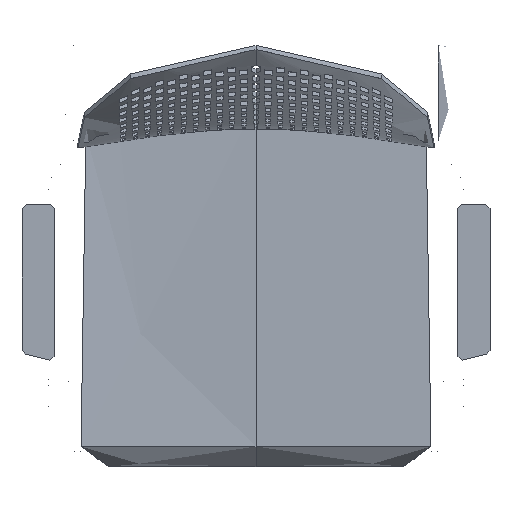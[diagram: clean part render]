
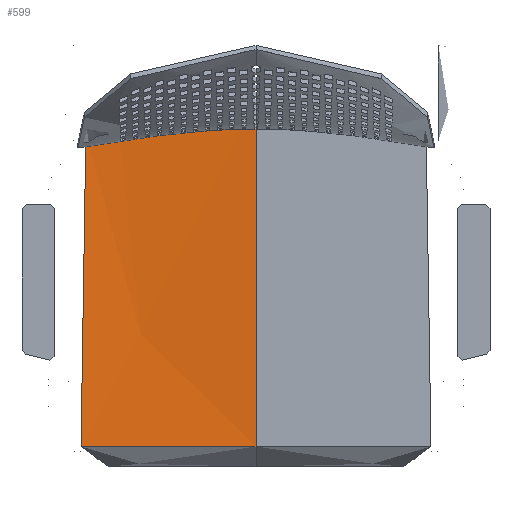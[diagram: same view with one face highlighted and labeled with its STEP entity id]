
A CAD part, top view. The second image highlights one B-rep face of the part: STEP entity #599.
In plain terms, the highlighted free-form (B-spline) face has degree [3, 3] with [4, 6] control points.
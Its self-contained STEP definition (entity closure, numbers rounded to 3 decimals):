
#599=ADVANCED_FACE('',(#1717),#20746,.T.);
#1717=FACE_OUTER_BOUND('',#2835,.T.);
#2835=EDGE_LOOP('',(#4570,#4571,#4572,#4573,#4574));
#4570=ORIENTED_EDGE('',*,*,#11030,.T.);
#4571=ORIENTED_EDGE('',*,*,#11020,.T.);
#4572=ORIENTED_EDGE('',*,*,#11039,.F.);
#4573=ORIENTED_EDGE('',*,*,#11015,.T.);
#4574=ORIENTED_EDGE('',*,*,#11040,.F.);
#11015=EDGE_CURVE('',#17568,#17570,#14409,.T.);
#11020=EDGE_CURVE('',#17573,#17574,#14414,.T.);
#11030=EDGE_CURVE('',#17579,#17573,#14424,.T.);
#11039=EDGE_CURVE('',#17568,#17574,#14433,.T.);
#11040=EDGE_CURVE('',#17579,#17570,#14205,.T.);
#14205=(
BOUNDED_CURVE()
B_SPLINE_CURVE(3,(#34113,#34114,#34115,#34116,#34117,#34118,#34119,#34120,
#34121,#34122,#34123,#34124,#34125,#34126,#34127,#34128,#34129,#34130,#34131,
#34132,#34133,#34134,#34135,#34136,#34137,#34138,#34139,#34140,#34141,#34142,
#34143),.UNSPECIFIED.,.F.,.F.)
B_SPLINE_CURVE_WITH_KNOTS((4,1,1,3,3,1,1,1,3,1,3,3,3,3,4),(2.851,
11.912,18.296,25.391,29.766,33.648,
35.997,37.781,43.025,45.325,48.241,
51.964,58.29,64.261,66.204),
 .UNSPECIFIED.)
CURVE()
GEOMETRIC_REPRESENTATION_ITEM()
RATIONAL_B_SPLINE_CURVE((1.,1.,1.,1.,1.,
1.,1.,1.,1.,1.,1.,1.,1.,1.,
1.,1.,1.,1.,1.,1.,1.,1.,1.,1.,1.,1.,1.,1.,
1.,1.,1.))
REPRESENTATION_ITEM('')
);
#14409=B_SPLINE_CURVE_WITH_KNOTS('',3,(#33852,#33853,#33854,#33855),
 .UNSPECIFIED.,.F.,.F.,(4,4),(-218.041,-38.983),
 .UNSPECIFIED.);
#14414=B_SPLINE_CURVE_WITH_KNOTS('',3,(#33884,#33885,#33886,#33887),
 .UNSPECIFIED.,.F.,.F.,(4,4),(0.,218.041),.UNSPECIFIED.);
#14424=B_SPLINE_CURVE_WITH_KNOTS('',1,(#33974,#33975),.UNSPECIFIED.,.F.,
 .F.,(2,2),(-388.74,0.),.UNSPECIFIED.);
#14433=B_SPLINE_CURVE_WITH_KNOTS('',3,(#34107,#34108,#34109,#34110,#34111,
#34112),.UNSPECIFIED.,.F.,.F.,(4,1,1,4),(-478.317,-332.608,
-186.899,-41.19),.UNSPECIFIED.);
#17568=VERTEX_POINT('',#31647);
#17570=VERTEX_POINT('',#31649);
#17573=VERTEX_POINT('',#31652);
#17574=VERTEX_POINT('',#31653);
#17579=VERTEX_POINT('',#31658);
#20746=B_SPLINE_SURFACE_WITH_KNOTS('',3,3,((#24320,#24321,#24322,#24323,
#24324,#24325),(#24326,#24327,#24328,#24329,#24330,#24331),(#24332,#24333,
#24334,#24335,#24336,#24337),(#24338,#24339,#24340,#24341,#24342,#24343)),
 .UNSPECIFIED.,.F.,.F.,.F.,(4,4),(4,1,1,4),(-0.436,218.041),
(41.19,186.899,332.608,478.754),
 .UNSPECIFIED.);
#24320=CARTESIAN_POINT('',(-218.048,-200.999,457.095));
#24321=CARTESIAN_POINT('',(-217.329,-154.605,456.325));
#24322=CARTESIAN_POINT('',(-215.891,-62.02,454.852));
#24323=CARTESIAN_POINT('',(-213.732,77.057,452.542));
#24324=CARTESIAN_POINT('',(-212.292,169.882,450.959));
#24325=CARTESIAN_POINT('',(-211.571,216.377,450.176));
#24326=CARTESIAN_POINT('',(-145.365,-200.999,455.087));
#24327=CARTESIAN_POINT('',(-144.886,-164.658,454.484));
#24328=CARTESIAN_POINT('',(-143.927,-58.489,442.29));
#24329=CARTESIAN_POINT('',(-142.488,90.792,440.302));
#24330=CARTESIAN_POINT('',(-141.528,180.446,446.036));
#24331=CARTESIAN_POINT('',(-141.047,223.036,447.407));
#24332=CARTESIAN_POINT('',(-72.683,-200.999,454.083));
#24333=CARTESIAN_POINT('',(-72.443,-169.684,453.563));
#24334=CARTESIAN_POINT('',(-71.964,-56.724,436.009));
#24335=CARTESIAN_POINT('',(-71.244,97.659,434.182));
#24336=CARTESIAN_POINT('',(-70.764,185.728,443.575));
#24337=CARTESIAN_POINT('',(-70.524,226.365,446.022));
#24338=CARTESIAN_POINT('',(0.,-200.999,454.083));
#24339=CARTESIAN_POINT('',(0.,-169.684,453.563));
#24340=CARTESIAN_POINT('',(0.,-56.724,436.009));
#24341=CARTESIAN_POINT('',(0.,97.659,434.182));
#24342=CARTESIAN_POINT('',(0.,185.728,443.575));
#24343=CARTESIAN_POINT('',(0.,226.365,446.022));
#31647=CARTESIAN_POINT('',(0.,226.,446.));
#31649=CARTESIAN_POINT('',(-173.403,219.256,448.809));
#31652=CARTESIAN_POINT('',(-217.613,-200.999,457.083));
#31653=CARTESIAN_POINT('',(0.,-200.999,454.083));
#31658=CARTESIAN_POINT('',(-211.594,187.641,450.636));
#33852=CARTESIAN_POINT('',(0.,226.,446.));
#33853=CARTESIAN_POINT('',(-57.801,226.,446.));
#33854=CARTESIAN_POINT('',(-115.602,223.752,446.936));
#33855=CARTESIAN_POINT('',(-173.403,219.256,448.809));
#33884=CARTESIAN_POINT('',(-217.613,-200.999,457.083));
#33885=CARTESIAN_POINT('',(-145.075,-200.999,455.083));
#33886=CARTESIAN_POINT('',(-72.538,-200.999,454.083));
#33887=CARTESIAN_POINT('',(0.,-200.999,454.083));
#33974=CARTESIAN_POINT('',(-211.594,187.641,450.636));
#33975=CARTESIAN_POINT('',(-217.613,-200.999,457.083));
#34107=CARTESIAN_POINT('',(0.,226.,446.));
#34108=CARTESIAN_POINT('',(0.,185.464,443.547));
#34109=CARTESIAN_POINT('',(0.,97.505,434.184));
#34110=CARTESIAN_POINT('',(0.,-56.724,436.009));
#34111=CARTESIAN_POINT('',(0.,-169.684,453.563));
#34112=CARTESIAN_POINT('',(0.,-200.999,454.083));
#34113=CARTESIAN_POINT('',(-211.594,187.641,450.636));
#34114=CARTESIAN_POINT('',(-208.679,186.894,450.478));
#34115=CARTESIAN_POINT('',(-203.606,186.011,450.189));
#34116=CARTESIAN_POINT('',(-196.091,185.782,449.749));
#34117=CARTESIAN_POINT('',(-191.609,186.251,449.489));
#34118=CARTESIAN_POINT('',(-189.278,186.675,449.358));
#34119=CARTESIAN_POINT('',(-187.842,186.937,449.277));
#34120=CARTESIAN_POINT('',(-186.416,187.277,449.198));
#34121=CARTESIAN_POINT('',(-185.031,187.75,449.123));
#34122=CARTESIAN_POINT('',(-183.804,188.17,449.057));
#34123=CARTESIAN_POINT('',(-181.884,189.018,448.957));
#34124=CARTESIAN_POINT('',(-179.674,190.557,448.852));
#34125=CARTESIAN_POINT('',(-177.367,192.702,448.75));
#34126=CARTESIAN_POINT('',(-176.067,194.709,448.706));
#34127=CARTESIAN_POINT('',(-175.373,196.318,448.689));
#34128=CARTESIAN_POINT('',(-175.068,197.024,448.682));
#34129=CARTESIAN_POINT('',(-174.486,198.671,448.671));
#34130=CARTESIAN_POINT('',(-174.139,200.38,448.674));
#34131=CARTESIAN_POINT('',(-173.994,201.341,448.677));
#34132=CARTESIAN_POINT('',(-173.808,202.569,448.682));
#34133=CARTESIAN_POINT('',(-173.711,203.807,448.69));
#34134=CARTESIAN_POINT('',(-173.639,205.044,448.699));
#34135=CARTESIAN_POINT('',(-173.514,207.147,448.715));
#34136=CARTESIAN_POINT('',(-173.478,209.253,448.733));
#34137=CARTESIAN_POINT('',(-173.454,211.358,448.75));
#34138=CARTESIAN_POINT('',(-173.431,213.344,448.767));
#34139=CARTESIAN_POINT('',(-173.424,215.331,448.782));
#34140=CARTESIAN_POINT('',(-173.414,217.317,448.796));
#34141=CARTESIAN_POINT('',(-173.411,217.963,448.801));
#34142=CARTESIAN_POINT('',(-173.407,218.61,448.805));
#34143=CARTESIAN_POINT('',(-173.403,219.256,448.809));
